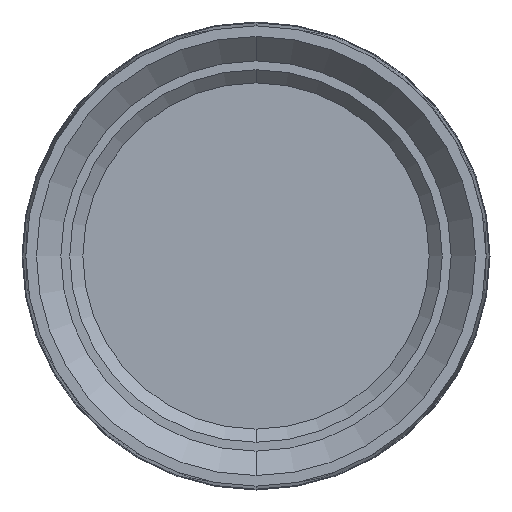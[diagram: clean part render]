
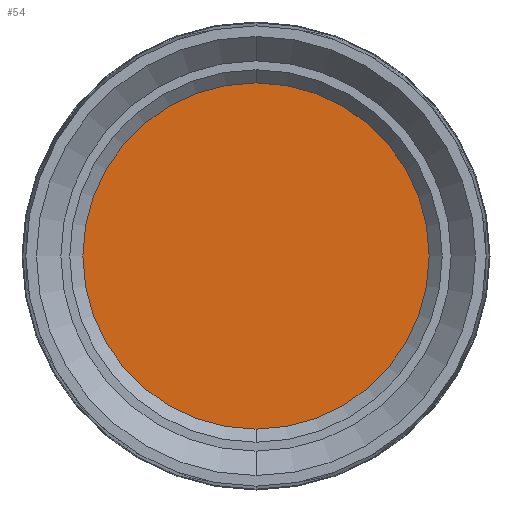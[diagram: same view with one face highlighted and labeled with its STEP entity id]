
A CAD part, front view. The second image highlights one B-rep face of the part: STEP entity #54.
In plain terms, the highlighted planar face has unit normal (0, -1, 0).
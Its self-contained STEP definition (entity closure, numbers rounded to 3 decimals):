
#54 = ADVANCED_FACE ( 'NONE', ( #137 ), #200, .F. ) ;
#95 = CARTESIAN_POINT ( 'NONE',  ( 0., 22.296, 0. ) ) ;
#98 = ORIENTED_EDGE ( 'NONE', *, *, #247, .T. ) ;
#132 = DIRECTION ( 'NONE',  ( 0., 1., 0. ) ) ;
#137 = FACE_OUTER_BOUND ( 'NONE', #465, .T. ) ;
#140 = EDGE_CURVE ( 'NONE', #553, #717, #445, .T. ) ;
#195 = DIRECTION ( 'NONE',  ( 0., 0., 1. ) ) ;
#200 = PLANE ( 'NONE',  #575 ) ;
#206 = DIRECTION ( 'NONE',  ( 0., 0., 1. ) ) ;
#208 = DIRECTION ( 'NONE',  ( 0., -1., 0. ) ) ;
#247 = EDGE_CURVE ( 'NONE', #717, #553, #333, .T. ) ;
#301 = CARTESIAN_POINT ( 'NONE',  ( 0., 22.296, 0. ) ) ;
#333 = CIRCLE ( 'NONE', #711, 6.588 ) ;
#445 = CIRCLE ( 'NONE', #499, 6.588 ) ;
#465 = EDGE_LOOP ( 'NONE', ( #503, #98 ) ) ;
#499 = AXIS2_PLACEMENT_3D ( 'NONE', #301, #693, #195 ) ;
#503 = ORIENTED_EDGE ( 'NONE', *, *, #140, .T. ) ;
#528 = DIRECTION ( 'NONE',  ( 0., 0., 1. ) ) ;
#553 = VERTEX_POINT ( 'NONE', #588 ) ;
#571 = CARTESIAN_POINT ( 'NONE',  ( 0., 22.296, 6.587 ) ) ;
#575 = AXIS2_PLACEMENT_3D ( 'NONE', #690, #132, #528 ) ;
#588 = CARTESIAN_POINT ( 'NONE',  ( 0., 22.296, -6.587 ) ) ;
#690 = CARTESIAN_POINT ( 'NONE',  ( 0., 22.296, 0. ) ) ;
#693 = DIRECTION ( 'NONE',  ( 0., -1., 0. ) ) ;
#711 = AXIS2_PLACEMENT_3D ( 'NONE', #95, #208, #206 ) ;
#717 = VERTEX_POINT ( 'NONE', #571 ) ;
